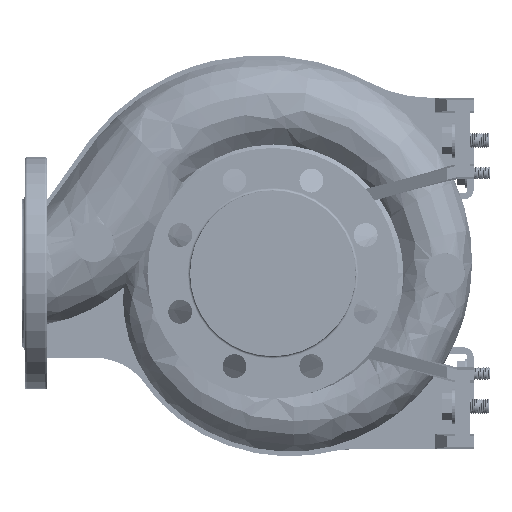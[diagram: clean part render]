
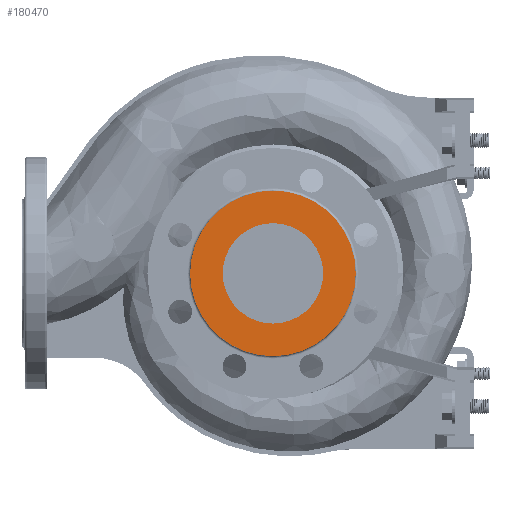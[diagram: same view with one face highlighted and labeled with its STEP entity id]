
A CAD part, left-side view. The second image highlights one B-rep face of the part: STEP entity #180470.
In plain terms, the highlighted planar face has unit normal (-1, 0, 0).
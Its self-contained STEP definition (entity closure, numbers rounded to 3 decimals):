
#2268 = DIRECTION ( 'NONE',  ( 0., 1., 0. ) ) ;
#10429 = DIRECTION ( 'NONE',  ( -1., 0., 0. ) ) ;
#11014 = EDGE_CURVE ( 'NONE', #101462, #87684, #114847, .T. ) ;
#11364 = PLANE ( 'NONE',  #159728 ) ;
#11579 = DIRECTION ( 'NONE',  ( 0., 1., 0. ) ) ;
#16422 = CARTESIAN_POINT ( 'NONE',  ( -100., 0., 0. ) ) ;
#18485 = AXIS2_PLACEMENT_3D ( 'NONE', #47121, #32034, #89535 ) ;
#23617 = FACE_OUTER_BOUND ( 'NONE', #102422, .T. ) ;
#32034 = DIRECTION ( 'NONE',  ( -1., 0., 0. ) ) ;
#41424 = VERTEX_POINT ( 'NONE', #91129 ) ;
#47121 = CARTESIAN_POINT ( 'NONE',  ( -100., 0., 0. ) ) ;
#48609 = CARTESIAN_POINT ( 'NONE',  ( -100., 0., 0. ) ) ;
#56238 = ORIENTED_EDGE ( 'NONE', *, *, #167995, .F. ) ;
#57899 = CARTESIAN_POINT ( 'NONE',  ( -100., 66., 0. ) ) ;
#59245 = CIRCLE ( 'NONE', #89388, 66. ) ;
#61053 = CIRCLE ( 'NONE', #157379, 40. ) ;
#73925 = DIRECTION ( 'NONE',  ( 1., 0., 0. ) ) ;
#87684 = VERTEX_POINT ( 'NONE', #135868 ) ;
#89388 = AXIS2_PLACEMENT_3D ( 'NONE', #169016, #140752, #11579 ) ;
#89535 = DIRECTION ( 'NONE',  ( 0., -1., 0. ) ) ;
#91129 = CARTESIAN_POINT ( 'NONE',  ( -100., -66., 0. ) ) ;
#92736 = EDGE_CURVE ( 'NONE', #87684, #101462, #61053, .T. ) ;
#93801 = DIRECTION ( 'NONE',  ( 0., -1., 0. ) ) ;
#99116 = ORIENTED_EDGE ( 'NONE', *, *, #11014, .F. ) ;
#101462 = VERTEX_POINT ( 'NONE', #102548 ) ;
#102422 = EDGE_LOOP ( 'NONE', ( #56238, #172760 ) ) ;
#102548 = CARTESIAN_POINT ( 'NONE',  ( -100., -40., 0. ) ) ;
#114847 = CIRCLE ( 'NONE', #18485, 40. ) ;
#118874 = EDGE_LOOP ( 'NONE', ( #99116, #145652 ) ) ;
#125457 = CARTESIAN_POINT ( 'NONE',  ( -100., 0., 0. ) ) ;
#128815 = VERTEX_POINT ( 'NONE', #57899 ) ;
#135868 = CARTESIAN_POINT ( 'NONE',  ( -100., 40., 0. ) ) ;
#138621 = CIRCLE ( 'NONE', #159588, 66. ) ;
#140533 = DIRECTION ( 'NONE',  ( 0., -1., 0. ) ) ;
#140752 = DIRECTION ( 'NONE',  ( 1., 0., 0. ) ) ;
#145652 = ORIENTED_EDGE ( 'NONE', *, *, #92736, .F. ) ;
#155575 = FACE_BOUND ( 'NONE', #118874, .T. ) ;
#157379 = AXIS2_PLACEMENT_3D ( 'NONE', #48609, #163611, #93801 ) ;
#159588 = AXIS2_PLACEMENT_3D ( 'NONE', #16422, #73925, #2268 ) ;
#159728 = AXIS2_PLACEMENT_3D ( 'NONE', #125457, #10429, #140533 ) ;
#163611 = DIRECTION ( 'NONE',  ( -1., 0., 0. ) ) ;
#167995 = EDGE_CURVE ( 'NONE', #128815, #41424, #59245, .T. ) ;
#169016 = CARTESIAN_POINT ( 'NONE',  ( -100., 0., 0. ) ) ;
#172760 = ORIENTED_EDGE ( 'NONE', *, *, #178408, .F. ) ;
#178408 = EDGE_CURVE ( 'NONE', #41424, #128815, #138621, .T. ) ;
#180470 = ADVANCED_FACE ( 'NONE', ( #155575, #23617 ), #11364, .T. ) ;
